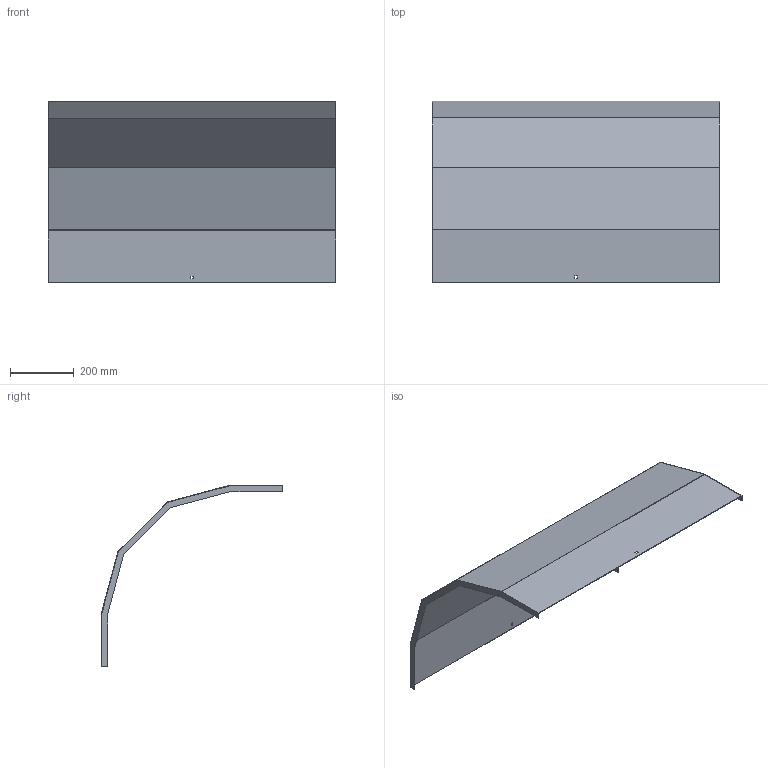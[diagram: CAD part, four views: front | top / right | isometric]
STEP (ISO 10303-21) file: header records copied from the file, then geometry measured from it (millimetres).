
FILE_DESCRIPTION (( 'STEP AP214' ), '1' );
FILE_NAME ('A2_33N3D900.step', '2025-02-21T10:45:19', ( '' ), ( '' ), 'SwSTEP 2.0', 'SolidWorks 2023', '' );
FILE_SCHEMA (( 'AUTOMOTIVE_DESIGN' ));
Length unit declared in the file: millimetre
Products named in the file (1): A2_33N3D900
Bounding box: 903 x 569.61 x 569.61 mm (x, y, z)
Volume: 1346572.1 mm3; surface area: 1801121.1 mm2
Topology: 1 solids, 1 shells, 34 faces, 96 edges, 64 vertices
Faces by surface type: plane 34
Entity records: 1111 total; most frequent: CARTESIAN_POINT 195, ORIENTED_EDGE 192, DIRECTION 166, LINE 96, EDGE_CURVE 96, VECTOR 96, VERTEX_POINT 64, EDGE_LOOP 38
